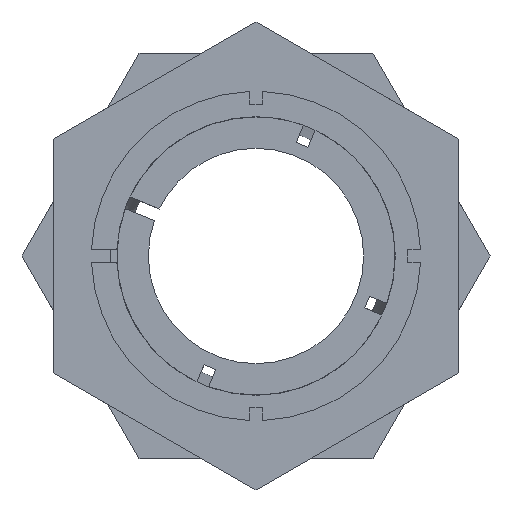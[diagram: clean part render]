
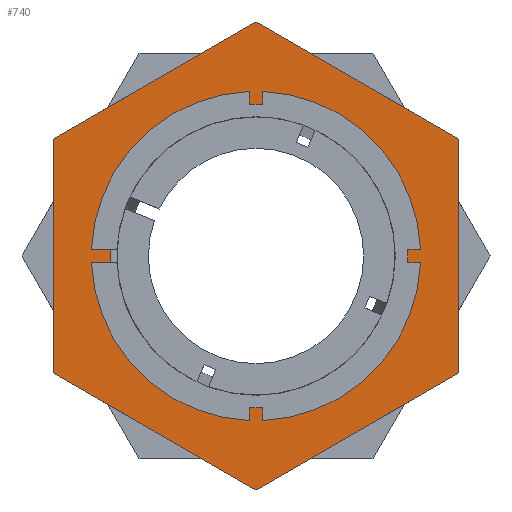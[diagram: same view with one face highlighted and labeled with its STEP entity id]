
A CAD part, left-side view. The second image highlights one B-rep face of the part: STEP entity #740.
In plain terms, the highlighted planar face has unit normal (-1, 0, 0).
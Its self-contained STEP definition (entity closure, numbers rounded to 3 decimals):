
#46 = EDGE_CURVE ( 'NONE', #1038, #1062, #2342, .T. ) ;
#55 = EDGE_CURVE ( 'NONE', #1042, #1044, #2431, .T. ) ;
#59 = EDGE_CURVE ( 'NONE', #1080, #1038, #2217, .T. ) ;
#60 = EDGE_CURVE ( 'NONE', #1092, #1088, #2235, .T. ) ;
#61 = EDGE_CURVE ( 'NONE', #1062, #1092, #2416, .T. ) ;
#62 = EDGE_CURVE ( 'NONE', #1044, #1042, #2455, .T. ) ;
#63 = EDGE_CURVE ( 'NONE', #1053, #1080, #2457, .T. ) ;
#64 = EDGE_CURVE ( 'NONE', #1088, #1053, #2300, .T. ) ;
#212 = AXIS2_PLACEMENT_3D ( 'NONE', #1213, #1216, #1217 ) ;
#217 = AXIS2_PLACEMENT_3D ( 'NONE', #1223, #1231, #1232 ) ;
#255 = AXIS2_PLACEMENT_3D ( 'NONE', #1794, #1799, #1800 ) ;
#449 = FACE_BOUND ( 'NONE', #647, .T. ) ;
#454 = FACE_OUTER_BOUND ( 'NONE', #632, .T. ) ;
#632 = EDGE_LOOP ( 'NONE', ( #2154, #2156, #2155, #2142, #2159, #2158 ) ) ;
#647 = EDGE_LOOP ( 'NONE', ( #2093, #2092 ) ) ;
#740 = ADVANCED_FACE ( 'NONE', ( #449, #454 ), #1791, .F. ) ;
#768 = CARTESIAN_POINT ( 'NONE',  ( 16.52, 16., -9.238 ) ) ;
#798 = CARTESIAN_POINT ( 'NONE',  ( 16.52, 0., 11.501 ) ) ;
#801 = CARTESIAN_POINT ( 'NONE',  ( 16.52, 0., 18.475 ) ) ;
#809 = CARTESIAN_POINT ( 'NONE',  ( 16.52, 0., -11.501 ) ) ;
#826 = CARTESIAN_POINT ( 'NONE',  ( 16.52, -16., -9.238 ) ) ;
#829 = CARTESIAN_POINT ( 'NONE',  ( 16.52, -16., 9.238 ) ) ;
#916 = CARTESIAN_POINT ( 'NONE',  ( 16.52, 0., -18.475 ) ) ;
#936 = CARTESIAN_POINT ( 'NONE',  ( 16.52, 16., 9.238 ) ) ;
#1038 = VERTEX_POINT ( 'NONE', #768 ) ;
#1042 = VERTEX_POINT ( 'NONE', #809 ) ;
#1044 = VERTEX_POINT ( 'NONE', #798 ) ;
#1053 = VERTEX_POINT ( 'NONE', #801 ) ;
#1062 = VERTEX_POINT ( 'NONE', #916 ) ;
#1080 = VERTEX_POINT ( 'NONE', #936 ) ;
#1088 = VERTEX_POINT ( 'NONE', #829 ) ;
#1092 = VERTEX_POINT ( 'NONE', #826 ) ;
#1196 = CARTESIAN_POINT ( 'NONE',  ( 16.52, 0., -18.475 ) ) ;
#1197 = DIRECTION ( 'NONE',  ( 0., -0.866, -0.5 ) ) ;
#1213 = CARTESIAN_POINT ( 'NONE',  ( 16.52, 0., 0. ) ) ;
#1216 = DIRECTION ( 'NONE',  ( -1., 0., 0. ) ) ;
#1217 = DIRECTION ( 'NONE',  ( 0., 0., 1. ) ) ;
#1223 = CARTESIAN_POINT ( 'NONE',  ( 16.52, 0., 0. ) ) ;
#1225 = CARTESIAN_POINT ( 'NONE',  ( 16.52, 16., -9.238 ) ) ;
#1226 = DIRECTION ( 'NONE',  ( 0., 0., -1. ) ) ;
#1227 = CARTESIAN_POINT ( 'NONE',  ( 16.52, -16., 9.238 ) ) ;
#1228 = DIRECTION ( 'NONE',  ( 0., 0., 1. ) ) ;
#1229 = CARTESIAN_POINT ( 'NONE',  ( 16.52, -16., -9.238 ) ) ;
#1230 = DIRECTION ( 'NONE',  ( 0., -0.866, 0.5 ) ) ;
#1231 = DIRECTION ( 'NONE',  ( -1., 0., 0. ) ) ;
#1232 = DIRECTION ( 'NONE',  ( 0., 0., 1. ) ) ;
#1233 = CARTESIAN_POINT ( 'NONE',  ( 16.52, 16., 9.238 ) ) ;
#1234 = DIRECTION ( 'NONE',  ( 0., 0.866, -0.5 ) ) ;
#1235 = CARTESIAN_POINT ( 'NONE',  ( 16.52, 0., 18.475 ) ) ;
#1236 = DIRECTION ( 'NONE',  ( 0., 0.866, 0.5 ) ) ;
#1791 = PLANE ( 'NONE',  #255 ) ;
#1794 = CARTESIAN_POINT ( 'NONE',  ( 16.52, 50., 0. ) ) ;
#1799 = DIRECTION ( 'NONE',  ( 1., 0., 0. ) ) ;
#1800 = DIRECTION ( 'NONE',  ( 0., 0., -1. ) ) ;
#2092 = ORIENTED_EDGE ( 'NONE', *, *, #55, .F. ) ;
#2093 = ORIENTED_EDGE ( 'NONE', *, *, #62, .F. ) ;
#2142 = ORIENTED_EDGE ( 'NONE', *, *, #61, .T. ) ;
#2154 = ORIENTED_EDGE ( 'NONE', *, *, #63, .T. ) ;
#2155 = ORIENTED_EDGE ( 'NONE', *, *, #46, .T. ) ;
#2156 = ORIENTED_EDGE ( 'NONE', *, *, #59, .T. ) ;
#2158 = ORIENTED_EDGE ( 'NONE', *, *, #64, .T. ) ;
#2159 = ORIENTED_EDGE ( 'NONE', *, *, #60, .T. ) ;
#2217 = LINE ( 'NONE', #1225, #2322 ) ;
#2226 = VECTOR ( 'NONE', #1230, 1000. ) ;
#2235 = LINE ( 'NONE', #1227, #2258 ) ;
#2238 = VECTOR ( 'NONE', #1197, 1000. ) ;
#2258 = VECTOR ( 'NONE', #1228, 1000. ) ;
#2300 = LINE ( 'NONE', #1235, #2335 ) ;
#2322 = VECTOR ( 'NONE', #1226, 1000. ) ;
#2335 = VECTOR ( 'NONE', #1236, 1000. ) ;
#2342 = LINE ( 'NONE', #1196, #2238 ) ;
#2409 = VECTOR ( 'NONE', #1234, 1000. ) ;
#2416 = LINE ( 'NONE', #1229, #2226 ) ;
#2431 = CIRCLE ( 'NONE', #212, 11.501 ) ;
#2455 = CIRCLE ( 'NONE', #217, 11.501 ) ;
#2457 = LINE ( 'NONE', #1233, #2409 ) ;
